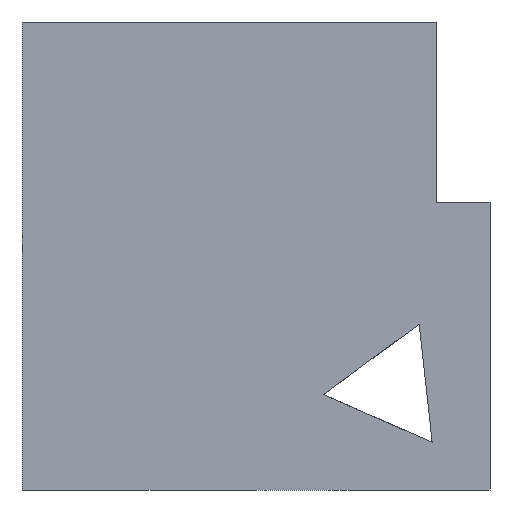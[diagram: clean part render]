
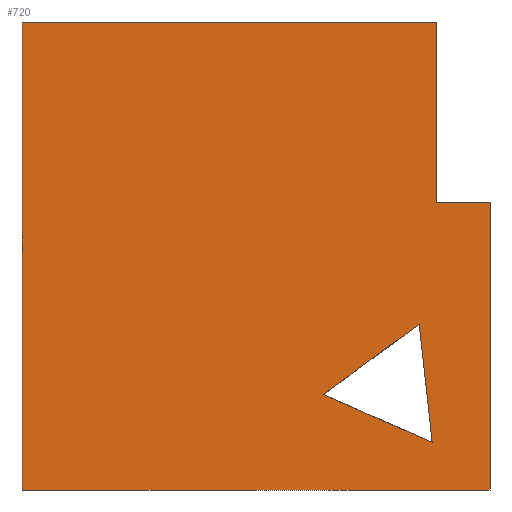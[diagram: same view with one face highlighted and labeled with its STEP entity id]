
A CAD part, left-side view. The second image highlights one B-rep face of the part: STEP entity #720.
In plain terms, the highlighted planar face has unit normal (-1, 0, 0).
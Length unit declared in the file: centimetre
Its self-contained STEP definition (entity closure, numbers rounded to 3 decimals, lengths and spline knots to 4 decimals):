
#23 = LINE ( 'NONE', #207, #478 ) ;
#32 = CARTESIAN_POINT ( 'NONE',  ( 0., 0., 0. ) ) ;
#54 = CARTESIAN_POINT ( 'NONE',  ( 0., 114.5854, 614.9513 ) ) ;
#59 = ORIENTED_EDGE ( 'NONE', *, *, #162, .F. ) ;
#72 = CARTESIAN_POINT ( 'NONE',  ( 0., 0., 1000. ) ) ;
#75 = LINE ( 'NONE', #72, #538 ) ;
#82 = EDGE_CURVE ( 'NONE', #331, #306, #23, .T. ) ;
#95 = ORIENTED_EDGE ( 'NONE', *, *, #648, .F. ) ;
#109 = ORIENTED_EDGE ( 'NONE', *, *, #438, .F. ) ;
#110 = DIRECTION ( 'NONE',  ( 0., 0., -1. ) ) ;
#113 = VERTEX_POINT ( 'NONE', #613 ) ;
#120 = VERTEX_POINT ( 'NONE', #32 ) ;
#137 = CARTESIAN_POINT ( 'NONE',  ( 0., 1000., 1000. ) ) ;
#141 = VERTEX_POINT ( 'NONE', #261 ) ;
#162 = EDGE_CURVE ( 'NONE', #651, #331, #376, .T. ) ;
#177 = CARTESIAN_POINT ( 'NONE',  ( 0., 151.3114, 354.3327 ) ) ;
#207 = CARTESIAN_POINT ( 'NONE',  ( 0., 114.5854, 614.9513 ) ) ;
#213 = EDGE_CURVE ( 'NONE', #113, #276, #216, .T. ) ;
#216 = LINE ( 'NONE', #268, #279 ) ;
#219 = EDGE_CURVE ( 'NONE', #141, #120, #371, .T. ) ;
#220 = LINE ( 'NONE', #629, #692 ) ;
#222 = CARTESIAN_POINT ( 'NONE',  ( 0., 1000., 1000. ) ) ;
#240 = ORIENTED_EDGE ( 'NONE', *, *, #410, .F. ) ;
#253 = ORIENTED_EDGE ( 'NONE', *, *, #213, .F. ) ;
#261 = CARTESIAN_POINT ( 'NONE',  ( 0., 1000., 0. ) ) ;
#265 = ORIENTED_EDGE ( 'NONE', *, *, #219, .T. ) ;
#268 = CARTESIAN_POINT ( 'NONE',  ( 0., 123.4813, 101.8413 ) ) ;
#276 = VERTEX_POINT ( 'NONE', #177 ) ;
#278 = CARTESIAN_POINT ( 'NONE',  ( 0., 356.0603, 203.9854 ) ) ;
#279 = VECTOR ( 'NONE', #321, 100. ) ;
#289 = CARTESIAN_POINT ( 'NONE',  ( 0., 114.5854, 614.9513 ) ) ;
#297 = EDGE_LOOP ( 'NONE', ( #95, #253, #657 ) ) ;
#306 = VERTEX_POINT ( 'NONE', #289 ) ;
#311 = DIRECTION ( 'NONE',  ( 0., 0., -1. ) ) ;
#321 = DIRECTION ( 'NONE',  ( 0., 0.11, 0.994 ) ) ;
#330 = VECTOR ( 'NONE', #528, 100. ) ;
#331 = VERTEX_POINT ( 'NONE', #634 ) ;
#343 = VECTOR ( 'NONE', #520, 100. ) ;
#371 = LINE ( 'NONE', #444, #699 ) ;
#376 = LINE ( 'NONE', #137, #752 ) ;
#380 = DIRECTION ( 'NONE',  ( 0., -1., 0. ) ) ;
#381 = VERTEX_POINT ( 'NONE', #278 ) ;
#387 = EDGE_CURVE ( 'NONE', #381, #113, #220, .T. ) ;
#396 = ORIENTED_EDGE ( 'NONE', *, *, #474, .T. ) ;
#403 = DIRECTION ( 'NONE',  ( 1., 0., 0. ) ) ;
#410 = EDGE_CURVE ( 'NONE', #306, #660, #568, .T. ) ;
#427 = DIRECTION ( 'NONE',  ( 0., 0., -1. ) ) ;
#438 = EDGE_CURVE ( 'NONE', #660, #120, #75, .T. ) ;
#444 = CARTESIAN_POINT ( 'NONE',  ( 0., 1000., 0. ) ) ;
#450 = DIRECTION ( 'NONE',  ( 0., -0.916, -0.402 ) ) ;
#458 = PLANE ( 'NONE',  #722 ) ;
#461 = VECTOR ( 'NONE', #525, 100. ) ;
#464 = CARTESIAN_POINT ( 'NONE',  ( 0., 0., 614.9513 ) ) ;
#469 = CARTESIAN_POINT ( 'NONE',  ( 0., 1000., 1000. ) ) ;
#474 = EDGE_CURVE ( 'NONE', #651, #141, #477, .T. ) ;
#477 = LINE ( 'NONE', #469, #330 ) ;
#478 = VECTOR ( 'NONE', #427, 100. ) ;
#511 = CARTESIAN_POINT ( 'NONE',  ( 0., 151.3114, 354.3327 ) ) ;
#515 = FACE_OUTER_BOUND ( 'NONE', #646, .T. ) ;
#520 = DIRECTION ( 'NONE',  ( 0., 0.806, -0.592 ) ) ;
#525 = DIRECTION ( 'NONE',  ( 0., -1., 0. ) ) ;
#528 = DIRECTION ( 'NONE',  ( 0., 0., -1. ) ) ;
#538 = VECTOR ( 'NONE', #311, 100. ) ;
#568 = LINE ( 'NONE', #54, #461 ) ;
#571 = FACE_BOUND ( 'NONE', #297, .T. ) ;
#603 = DIRECTION ( 'NONE',  ( 0., -1., 0. ) ) ;
#613 = CARTESIAN_POINT ( 'NONE',  ( 0., 123.4813, 101.8413 ) ) ;
#629 = CARTESIAN_POINT ( 'NONE',  ( 0., 356.0603, 203.9854 ) ) ;
#634 = CARTESIAN_POINT ( 'NONE',  ( 0., 114.5854, 1000. ) ) ;
#646 = EDGE_LOOP ( 'NONE', ( #109, #240, #724, #59, #396, #265 ) ) ;
#648 = EDGE_CURVE ( 'NONE', #276, #381, #743, .T. ) ;
#651 = VERTEX_POINT ( 'NONE', #222 ) ;
#657 = ORIENTED_EDGE ( 'NONE', *, *, #387, .F. ) ;
#660 = VERTEX_POINT ( 'NONE', #464 ) ;
#689 = CARTESIAN_POINT ( 'NONE',  ( 0., 1000., 1000. ) ) ;
#692 = VECTOR ( 'NONE', #450, 100. ) ;
#699 = VECTOR ( 'NONE', #603, 100. ) ;
#720 = ADVANCED_FACE ( 'NONE', ( #571, #515 ), #458, .F. ) ;
#722 = AXIS2_PLACEMENT_3D ( 'NONE', #689, #403, #110 ) ;
#724 = ORIENTED_EDGE ( 'NONE', *, *, #82, .F. ) ;
#743 = LINE ( 'NONE', #511, #343 ) ;
#752 = VECTOR ( 'NONE', #380, 100. ) ;
